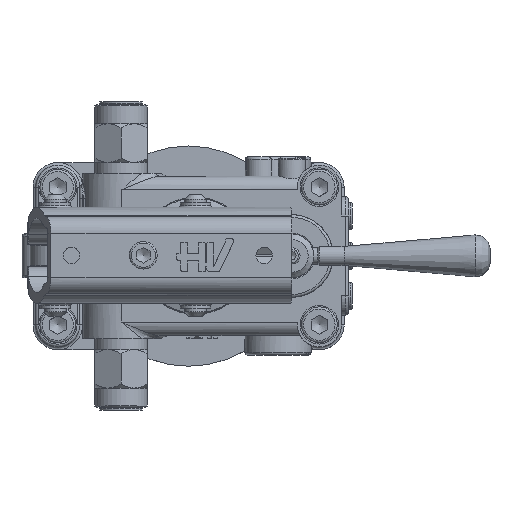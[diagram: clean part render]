
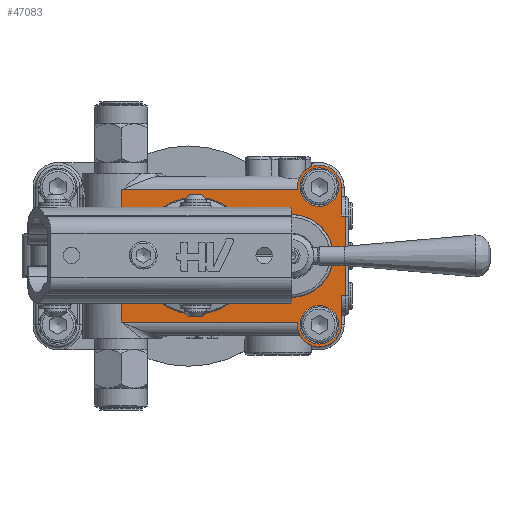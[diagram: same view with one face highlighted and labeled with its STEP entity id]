
A CAD part, top view. The second image highlights one B-rep face of the part: STEP entity #47083.
In plain terms, the highlighted planar face has unit normal (0, 0, 1).
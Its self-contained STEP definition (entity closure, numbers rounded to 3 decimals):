
#20033=CARTESIAN_POINT('',(40.078,32.262,43.));
#20034=VERTEX_POINT('',#20033);
#20035=CARTESIAN_POINT('',(59.,34.,43.));
#20036=DIRECTION('',(0.,0.,1.0));
#20037=DIRECTION('',(0.996,0.091,0.));
#20038=AXIS2_PLACEMENT_3D('',#20035,#20036,#20037);
#20039=CIRCLE('',#20038,19.002);
#20040=EDGE_CURVE('',#20034,#20034,#20039,.T.);
#40011=CARTESIAN_POINT('',(96.,58.,43.));
#40012=VERTEX_POINT('',#40011);
#40020=CARTESIAN_POINT('',(96.,59.,43.));
#40021=VERTEX_POINT('',#40020);
#40022=CARTESIAN_POINT('',(96.,58.,43.));
#40023=DIRECTION('',(0.0,1.0,0.0));
#40024=VECTOR('',#40023,1.);
#40025=LINE('',#40022,#40024);
#40026=EDGE_CURVE('',#40012,#40021,#40025,.T.);
#40042=CARTESIAN_POINT('',(96.0,10.0,43.));
#40043=VERTEX_POINT('',#40042);
#40053=CARTESIAN_POINT('',(96.0,9.,43.));
#40054=VERTEX_POINT('',#40053);
#40061=CARTESIAN_POINT('',(96.,9.,43.));
#40062=DIRECTION('',(0.0,1.0,0.0));
#40063=VECTOR('',#40062,1.);
#40064=LINE('',#40061,#40063);
#40065=EDGE_CURVE('',#40054,#40043,#40064,.T.);
#40224=CARTESIAN_POINT('',(32.,44.122,43.));
#40225=VERTEX_POINT('',#40224);
#40274=CARTESIAN_POINT('',(33.732,41.0,43.));
#40275=VERTEX_POINT('',#40274);
#40283=CARTESIAN_POINT('',(33.732,41.0,43.));
#40284=CARTESIAN_POINT('',(33.732,41.528,43.));
#40285=CARTESIAN_POINT('',(33.438,42.767,43.));
#40286=CARTESIAN_POINT('',(32.582,43.719,43.));
#40287=CARTESIAN_POINT('',(32.,44.122,43.));
#40288=B_SPLINE_CURVE_WITH_KNOTS('',3,(#40283,#40284,#40285,#40286,#40287),.UNSPECIFIED.,.F.,.U.,(4,1,4),(2.696,2.855,3.066),.UNSPECIFIED.);
#40289=EDGE_CURVE('',#40275,#40225,#40288,.T.);
#40301=CARTESIAN_POINT('',(33.732,27.,43.));
#40302=VERTEX_POINT('',#40301);
#40310=CARTESIAN_POINT('',(33.732,27.,43.));
#40311=DIRECTION('',(0.0,1.0,0.0));
#40312=VECTOR('',#40311,14.);
#40313=LINE('',#40310,#40312);
#40314=EDGE_CURVE('',#40302,#40275,#40313,.T.);
#40347=CARTESIAN_POINT('',(32.,23.878,43.));
#40348=VERTEX_POINT('',#40347);
#40356=CARTESIAN_POINT('',(32.,23.878,43.));
#40357=CARTESIAN_POINT('',(32.433,24.178,43.));
#40358=CARTESIAN_POINT('',(33.336,25.067,43.));
#40359=CARTESIAN_POINT('',(33.732,26.29,43.0));
#40360=CARTESIAN_POINT('',(33.732,27.,43.));
#40361=B_SPLINE_CURVE_WITH_KNOTS('',3,(#40356,#40357,#40358,#40359,#40360),.UNSPECIFIED.,.F.,.U.,(4,1,4),(2.696,2.854,3.065),.UNSPECIFIED.);
#40362=EDGE_CURVE('',#40348,#40302,#40361,.T.);
#41032=CARTESIAN_POINT('',(112.0,59.,43.));
#41033=VERTEX_POINT('',#41032);
#41040=CARTESIAN_POINT('',(112.,48.5,43.));
#41041=VERTEX_POINT('',#41040);
#41042=CARTESIAN_POINT('',(112.0,59.,43.));
#41043=DIRECTION('',(0.0,-1.0,0.0));
#41044=VECTOR('',#41043,10.5);
#41045=LINE('',#41042,#41044);
#41046=EDGE_CURVE('',#41033,#41041,#41045,.T.);
#41161=CARTESIAN_POINT('',(112.0,19.5,43.));
#41162=VERTEX_POINT('',#41161);
#41170=CARTESIAN_POINT('',(112.,9.,43.));
#41171=VERTEX_POINT('',#41170);
#41172=CARTESIAN_POINT('',(112.,19.5,43.));
#41173=DIRECTION('',(0.0,-1.0,0.0));
#41174=VECTOR('',#41173,10.5);
#41175=LINE('',#41172,#41174);
#41176=EDGE_CURVE('',#41162,#41171,#41175,.T.);
#41508=CARTESIAN_POINT('',(113.5,48.5,43.));
#41509=VERTEX_POINT('',#41508);
#41519=CARTESIAN_POINT('',(112.,48.5,43.));
#41520=DIRECTION('',(1.0,0.0,0.0));
#41521=VECTOR('',#41520,1.5);
#41522=LINE('',#41519,#41521);
#41523=EDGE_CURVE('',#41041,#41509,#41522,.T.);
#41533=CARTESIAN_POINT('',(113.5,19.5,43.));
#41534=VERTEX_POINT('',#41533);
#41544=CARTESIAN_POINT('',(112.0,19.5,43.));
#41545=DIRECTION('',(1.0,0.0,0.0));
#41546=VECTOR('',#41545,1.5);
#41547=LINE('',#41544,#41546);
#41548=EDGE_CURVE('',#41162,#41534,#41547,.T.);
#41828=CARTESIAN_POINT('',(113.5,48.5,43.));
#41829=DIRECTION('',(0.0,-1.0,0.0));
#41830=VECTOR('',#41829,29.);
#41831=LINE('',#41828,#41830);
#41832=EDGE_CURVE('',#41509,#41534,#41831,.T.);
#43276=CARTESIAN_POINT('',(32.,10.0,43.));
#43277=VERTEX_POINT('',#43276);
#43308=CARTESIAN_POINT('',(96.0,10.0,43.));
#43309=DIRECTION('',(-1.0,0.0,0.0));
#43310=VECTOR('',#43309,64.);
#43311=LINE('',#43308,#43310);
#43312=EDGE_CURVE('',#40043,#43277,#43311,.T.);
#43995=CARTESIAN_POINT('',(32.,58.,43.));
#43996=VERTEX_POINT('',#43995);
#44854=CARTESIAN_POINT('',(96.,58.,43.));
#44855=DIRECTION('',(-1.0,0.0,0.0));
#44856=VECTOR('',#44855,64.);
#44857=LINE('',#44854,#44856);
#44858=EDGE_CURVE('',#40012,#43996,#44857,.T.);
#44884=CARTESIAN_POINT('',(104.,59.,43.));
#44885=DIRECTION('',(0.0,0.0,-1.0));
#44886=DIRECTION('',(1.0,0.0,0.0));
#44887=AXIS2_PLACEMENT_3D('',#44884,#44885,#44886);
#44888=CIRCLE('',#44887,8.0);
#44889=EDGE_CURVE('',#40021,#41033,#44888,.T.);
#45273=CARTESIAN_POINT('',(83.0,44.198,43.));
#45274=VERTEX_POINT('',#45273);
#45282=CARTESIAN_POINT('',(83.0,23.802,43.));
#45283=VERTEX_POINT('',#45282);
#45284=CARTESIAN_POINT('',(83.0,23.802,43.));
#45285=DIRECTION('',(0.0,1.0,0.0));
#45286=VECTOR('',#45285,20.396);
#45287=LINE('',#45284,#45286);
#45288=EDGE_CURVE('',#45283,#45274,#45287,.T.);
#45342=CARTESIAN_POINT('',(94.,34.0,43.));
#45343=DIRECTION('',(0.0,0.0,-1.0));
#45344=DIRECTION('',(-1.0,0.0,0.0));
#45345=AXIS2_PLACEMENT_3D('',#45342,#45343,#45344);
#45346=CIRCLE('',#45345,15.0);
#45347=EDGE_CURVE('',#45274,#45283,#45346,.T.);
#45386=CARTESIAN_POINT('',(104.0,9.,43.));
#45387=DIRECTION('',(0.0,0.0,-1.0));
#45388=DIRECTION('',(-1.0,0.0,0.0));
#45389=AXIS2_PLACEMENT_3D('',#45386,#45387,#45388);
#45390=CIRCLE('',#45389,8.0);
#45391=EDGE_CURVE('',#41171,#40054,#45390,.T.);
#46155=CARTESIAN_POINT('',(111.0,9.,43.));
#46156=VERTEX_POINT('',#46155);
#46157=CARTESIAN_POINT('',(104.0,9.,43.));
#46158=DIRECTION('',(0.0,0.0,-1.0));
#46159=DIRECTION('',(1.0,0.0,0.0));
#46160=AXIS2_PLACEMENT_3D('',#46157,#46158,#46159);
#46161=CIRCLE('',#46160,7.);
#46162=EDGE_CURVE('',#46156,#46156,#46161,.T.);
#46183=CARTESIAN_POINT('',(111.,59.,43.));
#46184=VERTEX_POINT('',#46183);
#46185=CARTESIAN_POINT('',(104.,59.,43.));
#46186=DIRECTION('',(0.0,0.0,-1.0));
#46187=DIRECTION('',(1.0,0.0,0.0));
#46188=AXIS2_PLACEMENT_3D('',#46185,#46186,#46187);
#46189=CIRCLE('',#46188,7.);
#46190=EDGE_CURVE('',#46184,#46184,#46189,.T.);
#46645=CARTESIAN_POINT('',(32.0,44.122,43.0));
#46646=DIRECTION('',(0.0,1.0,0.0));
#46647=VECTOR('',#46646,13.878);
#46648=LINE('',#46645,#46647);
#46649=EDGE_CURVE('',#40225,#43996,#46648,.T.);
#46761=CARTESIAN_POINT('',(32.0,10.,43.0));
#46762=DIRECTION('',(0.0,1.0,0.0));
#46763=VECTOR('',#46762,13.878);
#46764=LINE('',#46761,#46763);
#46765=EDGE_CURVE('',#43277,#40348,#46764,.T.);
#47047=CARTESIAN_POINT('',(104.,34.,43.));
#47048=DIRECTION('',(0.0,0.0,1.0));
#47049=DIRECTION('',(1.0,0.0,0.0));
#47050=AXIS2_PLACEMENT_3D('',#47047,#47048,#47049);
#47051=PLANE('',#47050);
#47052=ORIENTED_EDGE('',*,*,#41832,.F.);
#47053=ORIENTED_EDGE('',*,*,#41523,.F.);
#47054=ORIENTED_EDGE('',*,*,#41046,.F.);
#47055=ORIENTED_EDGE('',*,*,#44889,.F.);
#47056=ORIENTED_EDGE('',*,*,#40026,.F.);
#47057=ORIENTED_EDGE('',*,*,#44858,.T.);
#47058=ORIENTED_EDGE('',*,*,#46649,.F.);
#47059=ORIENTED_EDGE('',*,*,#40289,.F.);
#47060=ORIENTED_EDGE('',*,*,#40314,.F.);
#47061=ORIENTED_EDGE('',*,*,#40362,.F.);
#47062=ORIENTED_EDGE('',*,*,#46765,.F.);
#47063=ORIENTED_EDGE('',*,*,#43312,.F.);
#47064=ORIENTED_EDGE('',*,*,#40065,.F.);
#47065=ORIENTED_EDGE('',*,*,#45391,.F.);
#47066=ORIENTED_EDGE('',*,*,#41176,.F.);
#47067=ORIENTED_EDGE('',*,*,#41548,.T.);
#47068=EDGE_LOOP('',(#47052,#47053,#47054,#47055,#47056,#47057,#47058,#47059,#47060,#47061,#47062,#47063,#47064,#47065,#47066,#47067));
#47069=FACE_OUTER_BOUND('',#47068,.T.);
#47070=ORIENTED_EDGE('',*,*,#45347,.T.);
#47071=ORIENTED_EDGE('',*,*,#45288,.T.);
#47072=EDGE_LOOP('',(#47070,#47071));
#47073=FACE_BOUND('',#47072,.T.);
#47074=ORIENTED_EDGE('',*,*,#46162,.T.);
#47075=EDGE_LOOP('',(#47074));
#47076=FACE_BOUND('',#47075,.T.);
#47077=ORIENTED_EDGE('',*,*,#46190,.T.);
#47078=EDGE_LOOP('',(#47077));
#47079=FACE_BOUND('',#47078,.T.);
#47080=ORIENTED_EDGE('',*,*,#20040,.F.);
#47081=EDGE_LOOP('',(#47080));
#47082=FACE_BOUND('',#47081,.T.);
#47083=ADVANCED_FACE('',(#47069,#47073,#47076,#47079,#47082),#47051,.T.);
